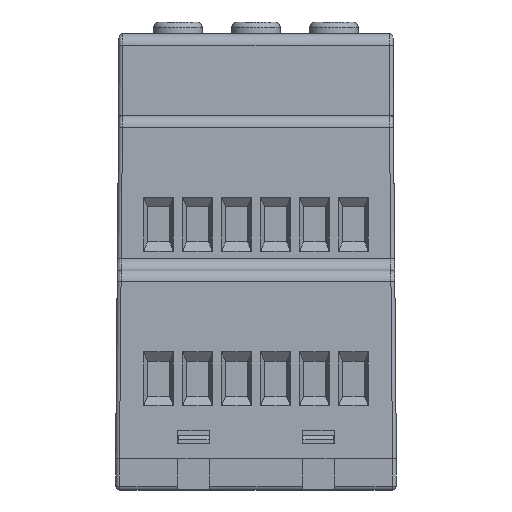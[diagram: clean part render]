
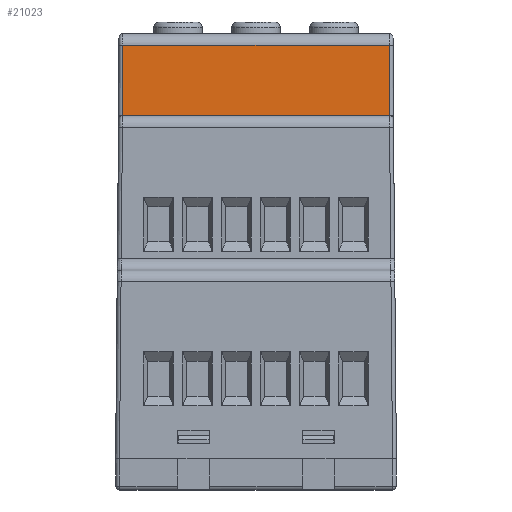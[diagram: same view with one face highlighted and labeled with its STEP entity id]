
A CAD part, front view. The second image highlights one B-rep face of the part: STEP entity #21023.
In plain terms, the highlighted planar face has unit normal (0, -1, 0.009).
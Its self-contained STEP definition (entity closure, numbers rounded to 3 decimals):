
#231 = CARTESIAN_POINT ( 'NONE',  ( 28.463, 22.4, 48. ) ) ;
#563 = CARTESIAN_POINT ( 'NONE',  ( 35.12, 22.4, 48. ) ) ;
#812 = DIRECTION ( 'NONE',  ( -0.035, -0.009, -0.999 ) ) ;
#1095 = DIRECTION ( 'NONE',  ( 0.035, -0.009, -0.999 ) ) ;
#1257 = DIRECTION ( 'NONE',  ( -0.035, -0.009, -0.999 ) ) ;
#1706 = VERTEX_POINT ( 'NONE', #34452 ) ;
#1985 = VECTOR ( 'NONE', #6196, 1000. ) ;
#2100 = CARTESIAN_POINT ( 'NONE',  ( 31.5, 22.4, 48. ) ) ;
#2168 = DIRECTION ( 'NONE',  ( 1., 0., 0. ) ) ;
#2553 = DIRECTION ( 'NONE',  ( -1., 0., 0. ) ) ;
#2921 = ORIENTED_EDGE ( 'NONE', *, *, #10781, .T. ) ;
#3159 = LINE ( 'NONE', #21663, #7067 ) ;
#3372 = LINE ( 'NONE', #5589, #13698 ) ;
#3376 = EDGE_CURVE ( 'NONE', #28177, #15954, #38430, .T. ) ;
#3552 = ORIENTED_EDGE ( 'NONE', *, *, #3376, .T. ) ;
#3729 = CARTESIAN_POINT ( 'NONE',  ( 7.5, 22.4, 48. ) ) ;
#3847 = DIRECTION ( 'NONE',  ( -1., 0., 0. ) ) ;
#4037 = ORIENTED_EDGE ( 'NONE', *, *, #24594, .T. ) ;
#4134 = LINE ( 'NONE', #34681, #39312 ) ;
#4339 = ORIENTED_EDGE ( 'NONE', *, *, #7231, .T. ) ;
#4391 = EDGE_CURVE ( 'NONE', #10460, #15954, #3159, .T. ) ;
#4979 = ORIENTED_EDGE ( 'NONE', *, *, #10507, .T. ) ;
#5565 = ORIENTED_EDGE ( 'NONE', *, *, #18166, .T. ) ;
#5589 = CARTESIAN_POINT ( 'NONE',  ( 35.058, 22.492, 58.496 ) ) ;
#5767 = FACE_OUTER_BOUND ( 'NONE', #35946, .T. ) ;
#6104 = EDGE_CURVE ( 'NONE', #1706, #19545, #7337, .T. ) ;
#6193 = DIRECTION ( 'NONE',  ( -0.009, 0.009, 1. ) ) ;
#6196 = DIRECTION ( 'NONE',  ( 1., 0., 0. ) ) ;
#6540 = ORIENTED_EDGE ( 'NONE', *, *, #12452, .T. ) ;
#6928 = CARTESIAN_POINT ( 'NONE',  ( 28.486, 22.403, 48.394 ) ) ;
#7065 = LINE ( 'NONE', #19336, #32001 ) ;
#7067 = VECTOR ( 'NONE', #2553, 1000. ) ;
#7231 = EDGE_CURVE ( 'NONE', #21885, #34957, #19001, .T. ) ;
#7337 = LINE ( 'NONE', #6928, #38609 ) ;
#7410 = VERTEX_POINT ( 'NONE', #37581 ) ;
#7586 = ORIENTED_EDGE ( 'NONE', *, *, #35939, .T. ) ;
#7819 = EDGE_CURVE ( 'NONE', #12848, #22888, #8212, .T. ) ;
#8119 = EDGE_CURVE ( 'NONE', #21885, #9813, #35040, .T. ) ;
#8212 = B_SPLINE_CURVE_WITH_KNOTS ( 'NONE', 3,
 ( #29544, #14490, #30136, #24312 ),
 .UNSPECIFIED., .F., .F.,
 ( 4, 4 ),
 ( 0., 0.009 ),
 .UNSPECIFIED. ) ;
#8399 = CARTESIAN_POINT ( 'NONE',  ( 18., 22.4, 48. ) ) ;
#9066 = CARTESIAN_POINT ( 'NONE',  ( 4.475, 22.4, 48. ) ) ;
#9361 = VECTOR ( 'NONE', #9936, 1000. ) ;
#9363 = CARTESIAN_POINT ( 'NONE',  ( 18., 22.479, 57.013 ) ) ;
#9486 = VERTEX_POINT ( 'NONE', #25152 ) ;
#9813 = VERTEX_POINT ( 'NONE', #14148 ) ;
#9911 = EDGE_CURVE ( 'NONE', #29373, #9486, #7065, .T. ) ;
#9936 = DIRECTION ( 'NONE',  ( 1., 0., 0. ) ) ;
#10460 = VERTEX_POINT ( 'NONE', #17678 ) ;
#10469 = VECTOR ( 'NONE', #3847, 1000. ) ;
#10507 = EDGE_CURVE ( 'NONE', #34944, #26041, #3372, .T. ) ;
#10781 = EDGE_CURVE ( 'NONE', #26041, #7410, #11800, .T. ) ;
#10889 = CARTESIAN_POINT ( 'NONE',  ( 4.516, 22.396, 47.529 ) ) ;
#11080 = AXIS2_PLACEMENT_3D ( 'NONE', #8399, #26307, #38558 ) ;
#11758 = VERTEX_POINT ( 'NONE', #231 ) ;
#11800 = LINE ( 'NONE', #9363, #10469 ) ;
#11910 = CARTESIAN_POINT ( 'NONE',  ( 4.488, 22.4, 48. ) ) ;
#12182 = CARTESIAN_POINT ( 'NONE',  ( 18., 22.4, 48. ) ) ;
#12452 = EDGE_CURVE ( 'NONE', #22888, #19565, #32714, .T. ) ;
#12848 = VERTEX_POINT ( 'NONE', #37232 ) ;
#13168 = LINE ( 'NONE', #25419, #27256 ) ;
#13698 = VECTOR ( 'NONE', #6193, 1000. ) ;
#13765 = DIRECTION ( 'NONE',  ( -0.009, -0.009, -1. ) ) ;
#14148 = CARTESIAN_POINT ( 'NONE',  ( 31.465, 22.391, 47. ) ) ;
#14173 = CARTESIAN_POINT ( 'NONE',  ( 0.882, 22.4, 48. ) ) ;
#14490 = CARTESIAN_POINT ( 'NONE',  ( 0.861, 22.4, 48. ) ) ;
#14918 = VECTOR ( 'NONE', #37677, 1000. ) ;
#15111 = CARTESIAN_POINT ( 'NONE',  ( 4.535, 22.391, 47. ) ) ;
#15895 = ORIENTED_EDGE ( 'NONE', *, *, #22371, .F. ) ;
#15954 = VERTEX_POINT ( 'NONE', #15111 ) ;
#15978 = LINE ( 'NONE', #25001, #9361 ) ;
#16330 = EDGE_CURVE ( 'NONE', #34957, #37536, #4134, .T. ) ;
#16346 = DIRECTION ( 'NONE',  ( 1., 0., 0. ) ) ;
#17678 = CARTESIAN_POINT ( 'NONE',  ( 7.465, 22.391, 47. ) ) ;
#18166 = EDGE_CURVE ( 'NONE', #9486, #11758, #15978, .T. ) ;
#18353 = ORIENTED_EDGE ( 'NONE', *, *, #9911, .T. ) ;
#19001 = LINE ( 'NONE', #28645, #14918 ) ;
#19336 = CARTESIAN_POINT ( 'NONE',  ( 18., 22.4, 48. ) ) ;
#19422 = DIRECTION ( 'NONE',  ( 1., 0., 0. ) ) ;
#19473 = ORIENTED_EDGE ( 'NONE', *, *, #22269, .T. ) ;
#19545 = VERTEX_POINT ( 'NONE', #25953 ) ;
#19565 = VERTEX_POINT ( 'NONE', #30131 ) ;
#20181 = ORIENTED_EDGE ( 'NONE', *, *, #32411, .F. ) ;
#20449 = ORIENTED_EDGE ( 'NONE', *, *, #24188, .T. ) ;
#21023 = ADVANCED_FACE ( 'NONE', ( #5767 ), #23679, .T. ) ;
#21251 = ORIENTED_EDGE ( 'NONE', *, *, #4391, .F. ) ;
#21663 = CARTESIAN_POINT ( 'NONE',  ( 34.5, 22.391, 47. ) ) ;
#21861 = LINE ( 'NONE', #33335, #1985 ) ;
#21885 = VERTEX_POINT ( 'NONE', #2100 ) ;
#22145 = DIRECTION ( 'NONE',  ( -1., 0., 0. ) ) ;
#22269 = EDGE_CURVE ( 'NONE', #19565, #28177, #30223, .T. ) ;
#22371 = EDGE_CURVE ( 'NONE', #29373, #10460, #28165, .T. ) ;
#22599 = LINE ( 'NONE', #28831, #30214 ) ;
#22888 = VERTEX_POINT ( 'NONE', #14173 ) ;
#23679 = PLANE ( 'NONE',  #11080 ) ;
#23862 = VECTOR ( 'NONE', #1257, 1000. ) ;
#24188 = EDGE_CURVE ( 'NONE', #37536, #34944, #21861, .T. ) ;
#24312 = CARTESIAN_POINT ( 'NONE',  ( 0.882, 22.4, 48. ) ) ;
#24438 = LINE ( 'NONE', #12182, #38613 ) ;
#24594 = EDGE_CURVE ( 'NONE', #11758, #1706, #24438, .T. ) ;
#25001 = CARTESIAN_POINT ( 'NONE',  ( 18., 22.4, 48. ) ) ;
#25152 = CARTESIAN_POINT ( 'NONE',  ( 7.537, 22.4, 48. ) ) ;
#25370 = CARTESIAN_POINT ( 'NONE',  ( 4.5, 22.4, 48. ) ) ;
#25419 = CARTESIAN_POINT ( 'NONE',  ( 34.5, 22.391, 47. ) ) ;
#25953 = CARTESIAN_POINT ( 'NONE',  ( 28.535, 22.391, 47. ) ) ;
#25997 = DIRECTION ( 'NONE',  ( 0.035, -0.009, -0.999 ) ) ;
#26041 = VERTEX_POINT ( 'NONE', #36907 ) ;
#26307 = DIRECTION ( 'NONE',  ( 0., -1., 0.009 ) ) ;
#27256 = VECTOR ( 'NONE', #22145, 1000. ) ;
#27596 = VECTOR ( 'NONE', #25997, 1000. ) ;
#27975 = CARTESIAN_POINT ( 'NONE',  ( 4.5, 22.4, 48. ) ) ;
#28165 = LINE ( 'NONE', #37408, #31699 ) ;
#28177 = VERTEX_POINT ( 'NONE', #25370 ) ;
#28527 = ORIENTED_EDGE ( 'NONE', *, *, #6104, .T. ) ;
#28645 = CARTESIAN_POINT ( 'NONE',  ( 18., 22.4, 48. ) ) ;
#28831 = CARTESIAN_POINT ( 'NONE',  ( 0.851, 22.401, 48.15 ) ) ;
#29075 = VECTOR ( 'NONE', #2168, 1000. ) ;
#29373 = VERTEX_POINT ( 'NONE', #3729 ) ;
#29544 = CARTESIAN_POINT ( 'NONE',  ( 0.85, 22.401, 48. ) ) ;
#29719 = CARTESIAN_POINT ( 'NONE',  ( 18., 22.4, 48. ) ) ;
#30131 = CARTESIAN_POINT ( 'NONE',  ( 4.463, 22.4, 48. ) ) ;
#30136 = CARTESIAN_POINT ( 'NONE',  ( 0.871, 22.4, 48. ) ) ;
#30214 = VECTOR ( 'NONE', #13765, 1000. ) ;
#30223 = B_SPLINE_CURVE_WITH_KNOTS ( 'NONE', 3,
 ( #30988, #9066, #11910, #27975 ),
 .UNSPECIFIED., .F., .F.,
 ( 4, 4 ),
 ( 0.99, 1. ),
 .UNSPECIFIED. ) ;
#30988 = CARTESIAN_POINT ( 'NONE',  ( 4.463, 22.4, 48. ) ) ;
#31150 = ORIENTED_EDGE ( 'NONE', *, *, #7819, .T. ) ;
#31699 = VECTOR ( 'NONE', #812, 1000. ) ;
#32001 = VECTOR ( 'NONE', #16346, 1000. ) ;
#32411 = EDGE_CURVE ( 'NONE', #9813, #19545, #13168, .T. ) ;
#32714 = LINE ( 'NONE', #29719, #29075 ) ;
#33234 = CARTESIAN_POINT ( 'NONE',  ( 35.15, 22.401, 48. ) ) ;
#33335 = CARTESIAN_POINT ( 'NONE',  ( 18., 22.4, 48. ) ) ;
#34452 = CARTESIAN_POINT ( 'NONE',  ( 28.5, 22.4, 48. ) ) ;
#34477 = ORIENTED_EDGE ( 'NONE', *, *, #16330, .T. ) ;
#34681 = CARTESIAN_POINT ( 'NONE',  ( 18., 22.4, 48. ) ) ;
#34811 = CARTESIAN_POINT ( 'NONE',  ( 31.537, 22.4, 48. ) ) ;
#34944 = VERTEX_POINT ( 'NONE', #33234 ) ;
#34957 = VERTEX_POINT ( 'NONE', #34811 ) ;
#35040 = LINE ( 'NONE', #37662, #23862 ) ;
#35939 = EDGE_CURVE ( 'NONE', #7410, #12848, #22599, .T. ) ;
#35946 = EDGE_LOOP ( 'NONE', ( #21251, #15895, #18353, #5565, #4037, #28527, #20181, #36296, #4339, #34477, #20449, #4979, #2921, #7586, #31150, #6540, #19473, #3552 ) ) ;
#36296 = ORIENTED_EDGE ( 'NONE', *, *, #8119, .F. ) ;
#36907 = CARTESIAN_POINT ( 'NONE',  ( 35.071, 22.479, 57.013 ) ) ;
#37232 = CARTESIAN_POINT ( 'NONE',  ( 0.85, 22.401, 48. ) ) ;
#37408 = CARTESIAN_POINT ( 'NONE',  ( 7.513, 22.403, 48.366 ) ) ;
#37536 = VERTEX_POINT ( 'NONE', #563 ) ;
#37581 = CARTESIAN_POINT ( 'NONE',  ( 0.929, 22.479, 57.013 ) ) ;
#37662 = CARTESIAN_POINT ( 'NONE',  ( 31.514, 22.403, 48.394 ) ) ;
#37677 = DIRECTION ( 'NONE',  ( 1., 0., 0. ) ) ;
#38430 = LINE ( 'NONE', #10889, #27596 ) ;
#38558 = DIRECTION ( 'NONE',  ( 0., -0.009, -1. ) ) ;
#38609 = VECTOR ( 'NONE', #1095, 1000. ) ;
#38613 = VECTOR ( 'NONE', #39333, 1000. ) ;
#39312 = VECTOR ( 'NONE', #19422, 1000. ) ;
#39333 = DIRECTION ( 'NONE',  ( 1., 0., 0. ) ) ;
